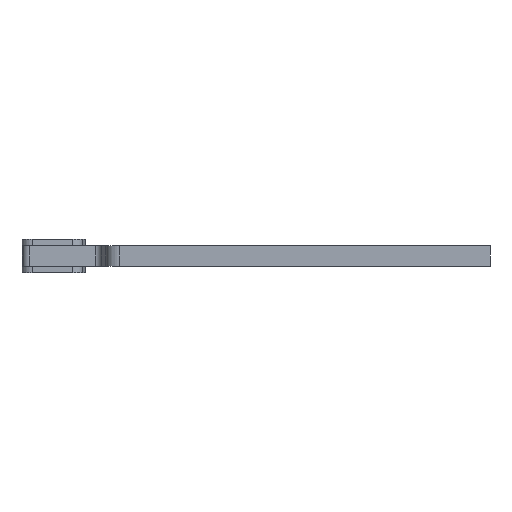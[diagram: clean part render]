
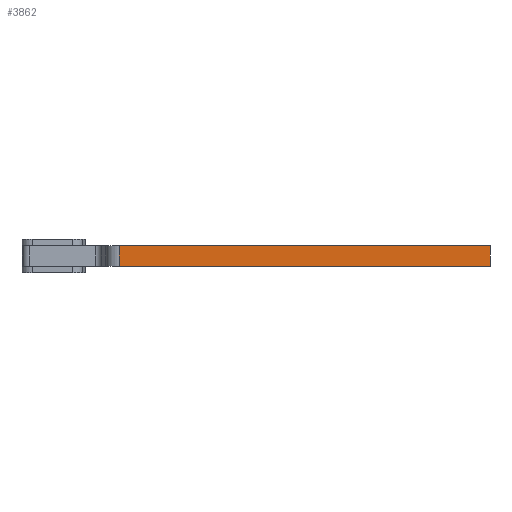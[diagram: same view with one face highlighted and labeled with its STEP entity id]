
A CAD part, front view. The second image highlights one B-rep face of the part: STEP entity #3862.
In plain terms, the highlighted planar face has unit normal (0, -1, 0).
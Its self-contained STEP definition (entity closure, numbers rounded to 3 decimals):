
#66=LINE('',#5849,#445);
#67=LINE('',#5852,#446);
#68=LINE('',#5854,#447);
#69=LINE('',#5855,#448);
#445=VECTOR('',#4638,38.1);
#446=VECTOR('',#4641,702.626);
#447=VECTOR('',#4642,38.1);
#448=VECTOR('',#4643,702.626);
#798=PLANE('',#4116);
#979=FACE_OUTER_BOUND('',#1216,.T.);
#1216=EDGE_LOOP('',(#2720,#2721,#2722,#2723));
#1674=VERTEX_POINT('',#5843);
#1676=VERTEX_POINT('',#5847);
#1677=VERTEX_POINT('',#5851);
#1678=VERTEX_POINT('',#5853);
#2080=EDGE_CURVE('',#1674,#1676,#66,.T.);
#2081=EDGE_CURVE('',#1677,#1676,#67,.T.);
#2082=EDGE_CURVE('',#1677,#1678,#68,.T.);
#2083=EDGE_CURVE('',#1674,#1678,#69,.T.);
#2720=ORIENTED_EDGE('',*,*,#2080,.T.);
#2721=ORIENTED_EDGE('',*,*,#2081,.F.);
#2722=ORIENTED_EDGE('',*,*,#2082,.T.);
#2723=ORIENTED_EDGE('',*,*,#2083,.F.);
#3862=ADVANCED_FACE('',(#979),#798,.T.);
#4116=AXIS2_PLACEMENT_3D('',#5850,#4639,#4640);
#4638=DIRECTION('',(0.,0.,1.));
#4639=DIRECTION('center_axis',(0.,-1.,0.));
#4640=DIRECTION('ref_axis',(1.,0.,0.));
#4641=DIRECTION('',(1.,0.,0.));
#4642=DIRECTION('',(0.,0.,-1.));
#4643=DIRECTION('',(-1.,0.,0.));
#5843=CARTESIAN_POINT('',(-246.64,0.,-19.05));
#5847=CARTESIAN_POINT('',(-246.64,0.,19.05));
#5849=CARTESIAN_POINT('',(-246.64,0.,9.525));
#5850=CARTESIAN_POINT('Origin',(-949.266,0.,
0.));
#5851=CARTESIAN_POINT('',(-949.266,0.,19.05));
#5852=CARTESIAN_POINT('',(0.,0.,19.05));
#5853=CARTESIAN_POINT('',(-949.266,0.,-19.05));
#5854=CARTESIAN_POINT('',(-949.266,0.,0.));
#5855=CARTESIAN_POINT('',(0.,0.,-19.05));
